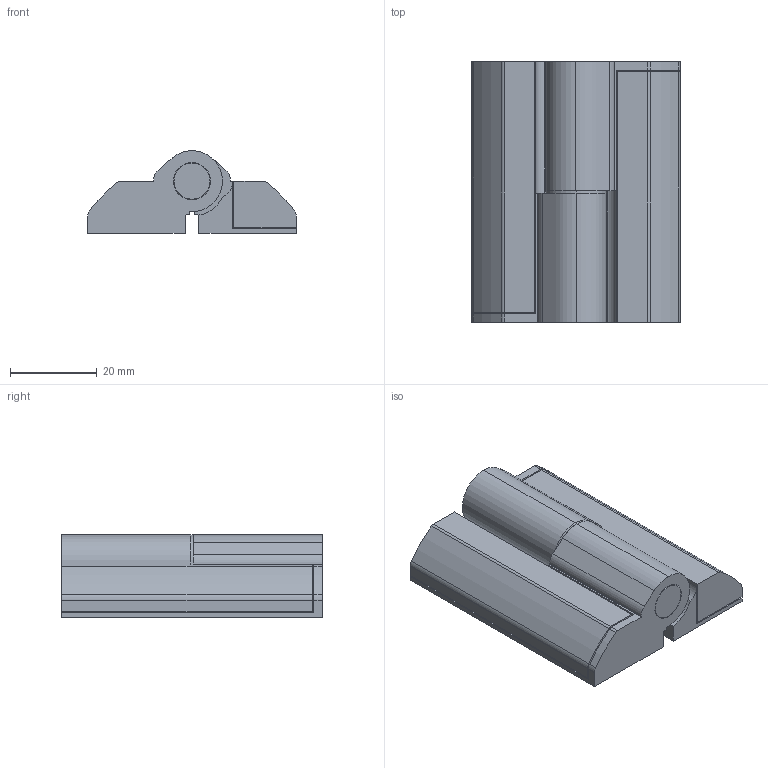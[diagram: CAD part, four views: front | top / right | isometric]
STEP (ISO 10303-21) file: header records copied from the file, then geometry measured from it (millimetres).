
FILE_DESCRIPTION (( 'STEP AP214' ), '1' );
FILE_NAME ('B65_KH73_L_Assembly [PC].STEP', '2021-10-04T11:21:03', ( '' ), ( '' ), 'SwSTEP 2.0', 'SolidWorks 2020', '' );
FILE_SCHEMA (( 'AUTOMOTIVE_DESIGN' ));
Length unit declared in the file: millimetre
Products named in the file (3): B65_KH73_Pin; B65_KH73_L_Assembly [PC]; B65_KH73_L
Assembly tree (3 placements, depth 2):
  B65_KH73_L_Assembly [PC]
    B65_KH73_L  x2
    B65_KH73_Pin
Bounding box: 48 x 60 x 19 mm (x, y, z)
Volume: 33584.7 mm3; surface area: 17475.5 mm2
Topology: 3 solids, 3 shells, 102 faces, 260 edges, 172 vertices
Faces by surface type: plane 52, cylinder 46, cone 4
Entity records: 1996 total; most frequent: DIRECTION 327, CARTESIAN_POINT 301, ORIENTED_EDGE 286, EDGE_CURVE 143, AXIS2_PLACEMENT_3D 120, VERTEX_POINT 94, LINE 87, VECTOR 87
